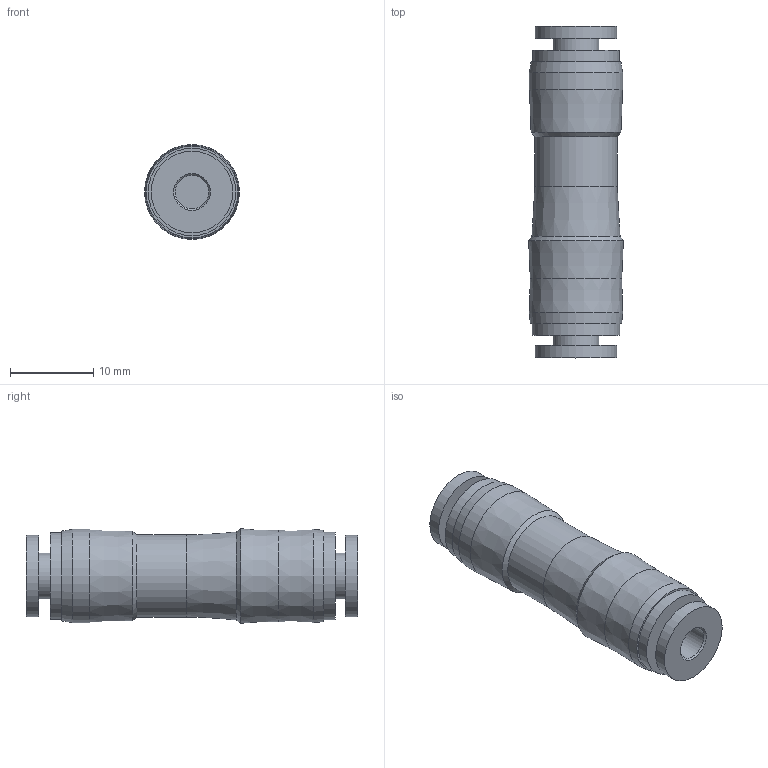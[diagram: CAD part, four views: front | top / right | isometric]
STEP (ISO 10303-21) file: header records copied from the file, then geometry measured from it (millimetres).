
FILE_DESCRIPTION(/* description */ (''),/* implementation_level */ '2;1');
FILE_NAME(/* name */ 'S:\_Tecnico\ArchivioUT\_Disegni3D ingombri\DISEGNI 3D per ingombri\RF\RF220004.stp',/* time_stamp */ '2019-09-27T11:27:21+02:00',/* author */ ('ufficiotecnico3'),/* organization */ (''),/* preprocessor_version */ 'ST-DEVELOPER v18',/* originating_system */ 'Autodesk Inventor 2020',/* authorisation */ '');
FILE_SCHEMA (('AUTOMOTIVE_DESIGN { 1 0 10303 214 3 1 1 }'));
Length unit declared in the file: millimetre
Products named in the file (1): RF220004
Bounding box: 11.4 x 39.9 x 11.4 mm (x, y, z)
Volume: 2925.1 mm3; surface area: 2129.8 mm2
Topology: 1 solids, 1 shells, 30 faces, 76 edges, 56 vertices
Faces by surface type: cone 10, cylinder 10, plane 10
Full cylindrical faces by diameter (mm): 4 x2, 5.5 x2, 9.8 x2, 9.9 x1, 10.4 x1, 10.5 x1, 11.2 x1
Entity records: 1005 total; most frequent: DIRECTION 194, CARTESIAN_POINT 163, ORIENTED_EDGE 152, AXIS2_PLACEMENT_3D 87, EDGE_CURVE 76, CIRCLE 56, VERTEX_POINT 56, EDGE_LOOP 38
